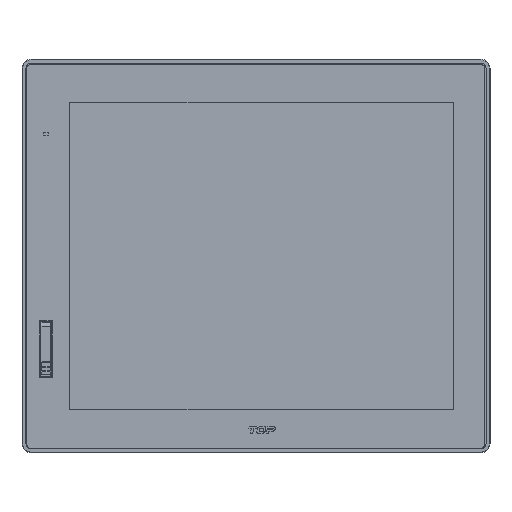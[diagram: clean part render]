
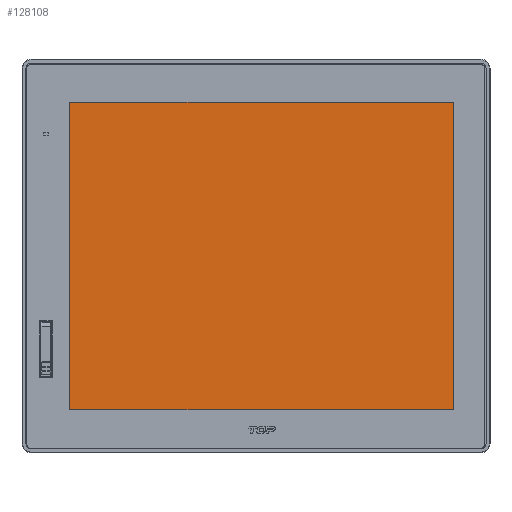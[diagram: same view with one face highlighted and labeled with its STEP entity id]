
A CAD part, top view. The second image highlights one B-rep face of the part: STEP entity #128108.
In plain terms, the highlighted planar face has unit normal (0, 0, 1).
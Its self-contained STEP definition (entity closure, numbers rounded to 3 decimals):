
#22453=DIRECTION('',(-1.,0.,0.));
#22454=VECTOR('',#22453,339.5);
#22455=CARTESIAN_POINT('',(169.75,-135.95,3.45));
#22456=LINE('',#22455,#22454);
#22457=DIRECTION('',(0.,-1.,0.));
#22458=VECTOR('',#22457,271.9);
#22459=CARTESIAN_POINT('',(-169.75,135.95,3.45));
#22460=LINE('',#22459,#22458);
#22461=DIRECTION('',(-1.,0.,0.));
#22462=VECTOR('',#22461,339.5);
#22463=CARTESIAN_POINT('',(169.75,135.95,3.45));
#22464=LINE('',#22463,#22462);
#22465=DIRECTION('',(0.,1.,0.));
#22466=VECTOR('',#22465,271.9);
#22467=CARTESIAN_POINT('',(169.75,-135.95,3.45));
#22468=LINE('',#22467,#22466);
#81534=CARTESIAN_POINT('',(169.75,-135.95,3.45));
#81535=CARTESIAN_POINT('',(169.75,135.95,3.45));
#81536=VERTEX_POINT('',#81534);
#81537=VERTEX_POINT('',#81535);
#81538=CARTESIAN_POINT('',(-169.75,135.95,3.45));
#81539=VERTEX_POINT('',#81538);
#81540=CARTESIAN_POINT('',(-169.75,-135.95,3.45));
#81541=VERTEX_POINT('',#81540);
#128093=CARTESIAN_POINT('',(0.,0.,3.45));
#128094=DIRECTION('',(0.,0.,1.));
#128095=DIRECTION('',(1.,0.,0.));
#128096=AXIS2_PLACEMENT_3D('',#128093,#128094,#128095);
#128097=PLANE('',#128096);
#128099=ORIENTED_EDGE('',*,*,#128098,.T.);
#128101=ORIENTED_EDGE('',*,*,#128100,.F.);
#128103=ORIENTED_EDGE('',*,*,#128102,.F.);
#128105=ORIENTED_EDGE('',*,*,#128104,.F.);
#128106=EDGE_LOOP('',(#128099,#128101,#128103,#128105));
#128107=FACE_OUTER_BOUND('',#128106,.F.);
#128108=ADVANCED_FACE('',(#128107),#128097,.T.);
#128098=EDGE_CURVE('',#81536,#81541,#22456,.T.);
#128100=EDGE_CURVE('',#81539,#81541,#22460,.T.);
#128102=EDGE_CURVE('',#81537,#81539,#22464,.T.);
#128104=EDGE_CURVE('',#81536,#81537,#22468,.T.);
